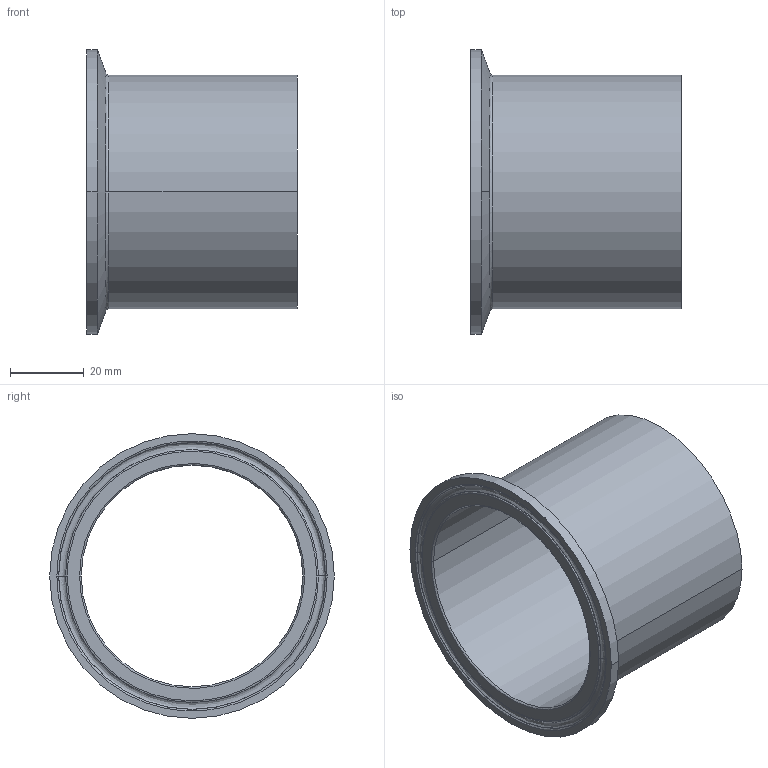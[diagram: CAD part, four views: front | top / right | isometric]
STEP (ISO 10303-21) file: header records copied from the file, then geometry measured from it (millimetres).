
FILE_DESCRIPTION (( 'STEP AP214' ), '1' );
FILE_NAME ('TEG14AM76L2.5.STEP', '2016-05-23T03:54:58', ( 'eran' ), ( '' ), 'SwSTEP 2.0', 'SolidWorks 2016', '' );
FILE_SCHEMA (( 'AUTOMOTIVE_DESIGN' ));
Length unit declared in the file: millimetre
Products named in the file (1): TEG14AM76L2.5
Bounding box: 57.2 x 77.39 x 77.39 mm (x, y, z)
Volume: 24324.2 mm3; surface area: 25722.6 mm2
Topology: 1 solids, 1 shells, 25 faces, 62 edges, 40 vertices
Faces by surface type: bspline 10, cylinder 6, cone 6, plane 3
Entity records: 1471 total; most frequent: CARTESIAN_POINT 846, DIRECTION 132, ORIENTED_EDGE 124, EDGE_CURVE 62, AXIS2_PLACEMENT_3D 60, CIRCLE 44, VERTEX_POINT 40, EDGE_LOOP 28
